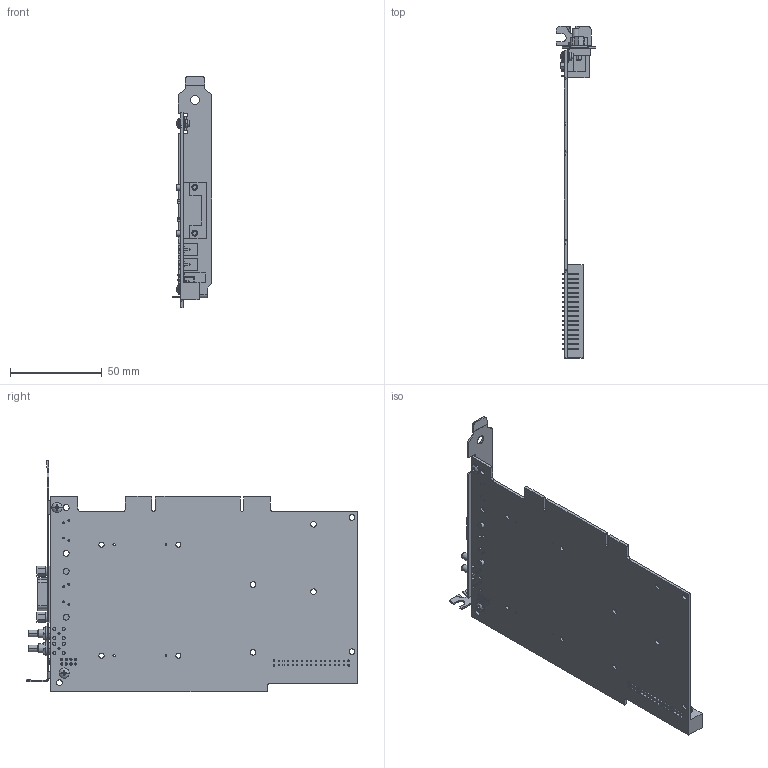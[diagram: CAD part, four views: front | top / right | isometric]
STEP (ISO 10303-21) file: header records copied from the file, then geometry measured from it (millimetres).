
FILE_DESCRIPTION((''),'2;1');
FILE_NAME('CU_PCI-8513_1','2009-02-19T',('dcrowder'),(''),'PRO/ENGINEER BY PARAMETRIC TECHNOLOGY CORPORATION, 2006080','PRO/ENGINEER BY PARAMETRIC TECHNOLOGY CORPORATION, 2006080','');
FILE_SCHEMA(('CONFIG_CONTROL_DESIGN'));
Length unit declared in the file: inch
Products named in the file (1): CU_PCI-8513_1
Bounding box: 21.59 x 180.92 x 126.37 mm (x, y, z)
Volume: 36636.9 mm3; surface area: 46579.3 mm2
Topology: 1 solids, 2 shells, 1458 faces, 3957 edges, 2508 vertices
Faces by surface type: plane 962, cylinder 392, bspline 60, sphere 20, torus 12, cone 12
Entity records: 48019 total; most frequent: CARTESIAN_POINT 10654, ORIENTED_EDGE 7834, DIRECTION 7491, EDGE_CURVE 3917, VECTOR 2861, LINE 2861, VERTEX_POINT 2546, AXIS2_PLACEMENT_3D 2315
